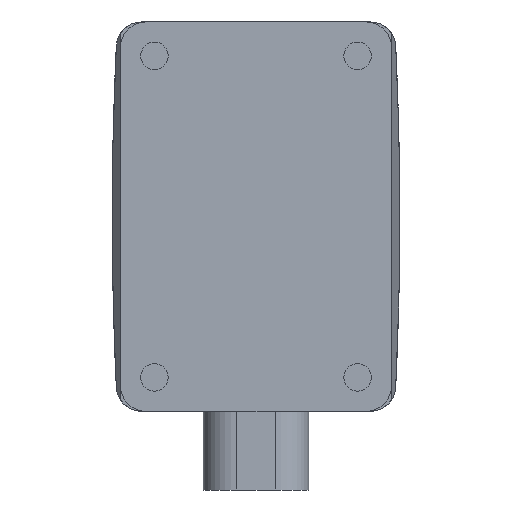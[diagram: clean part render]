
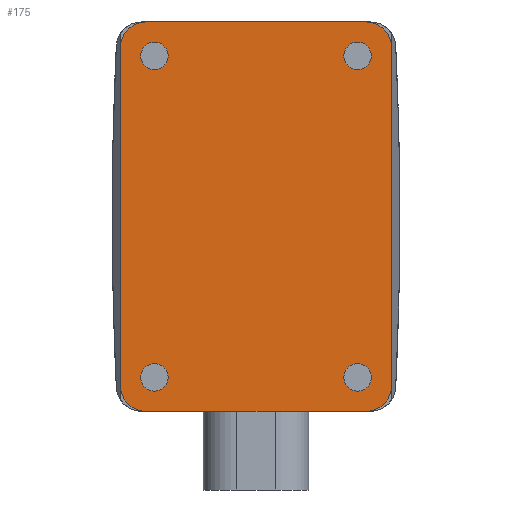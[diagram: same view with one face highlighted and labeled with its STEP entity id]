
A CAD part, front view. The second image highlights one B-rep face of the part: STEP entity #175.
In plain terms, the highlighted planar face has unit normal (0, -1, 0).
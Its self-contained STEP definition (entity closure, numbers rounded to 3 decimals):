
#175 = ADVANCED_FACE( '', ( #410, #411, #412, #413, #414 ), #415, .F. );
#410 = FACE_BOUND( '', #703, .T. );
#411 = FACE_BOUND( '', #704, .T. );
#412 = FACE_BOUND( '', #705, .T. );
#413 = FACE_BOUND( '', #706, .T. );
#414 = FACE_OUTER_BOUND( '', #707, .T. );
#415 = PLANE( '', #708 );
#703 = EDGE_LOOP( '', ( #1159 ) );
#704 = EDGE_LOOP( '', ( #1160 ) );
#705 = EDGE_LOOP( '', ( #1161 ) );
#706 = EDGE_LOOP( '', ( #1162 ) );
#707 = EDGE_LOOP( '', ( #1163, #1164, #1165, #1166, #1167, #1168, #1169, #1170 ) );
#708 = AXIS2_PLACEMENT_3D( '', #1171, #1172, #1173 );
#1159 = ORIENTED_EDGE( '', *, *, #1746, .T. );
#1160 = ORIENTED_EDGE( '', *, *, #1747, .T. );
#1161 = ORIENTED_EDGE( '', *, *, #1615, .T. );
#1162 = ORIENTED_EDGE( '', *, *, #1638, .T. );
#1163 = ORIENTED_EDGE( '', *, *, #1643, .F. );
#1164 = ORIENTED_EDGE( '', *, *, #1748, .F. );
#1165 = ORIENTED_EDGE( '', *, *, #1657, .F. );
#1166 = ORIENTED_EDGE( '', *, *, #1749, .F. );
#1167 = ORIENTED_EDGE( '', *, *, #1750, .F. );
#1168 = ORIENTED_EDGE( '', *, *, #1751, .F. );
#1169 = ORIENTED_EDGE( '', *, *, #1752, .F. );
#1170 = ORIENTED_EDGE( '', *, *, #1604, .F. );
#1171 = CARTESIAN_POINT( '', ( -13., -18., 20. ) );
#1172 = DIRECTION( '', ( 0., 1., 0. ) );
#1173 = DIRECTION( '', ( 0., 0., 1. ) );
#1604 = EDGE_CURVE( '', #1885, #1887, #1888, .T. );
#1615 = EDGE_CURVE( '', #1905, #1905, #1906, .T. );
#1638 = EDGE_CURVE( '', #1945, #1945, #1946, .T. );
#1643 = EDGE_CURVE( '', #1952, #1885, #1954, .T. );
#1657 = EDGE_CURVE( '', #1976, #1978, #1979, .T. );
#1746 = EDGE_CURVE( '', #2120, #2120, #2121, .T. );
#1747 = EDGE_CURVE( '', #2122, #2122, #2123, .T. );
#1748 = EDGE_CURVE( '', #1978, #1952, #2124, .T. );
#1749 = EDGE_CURVE( '', #2125, #1976, #2126, .T. );
#1750 = EDGE_CURVE( '', #2127, #2125, #2128, .T. );
#1751 = EDGE_CURVE( '', #2129, #2127, #2130, .T. );
#1752 = EDGE_CURVE( '', #1887, #2129, #2131, .T. );
#1885 = VERTEX_POINT( '', #2296 );
#1887 = VERTEX_POINT( '', #2299 );
#1888 = CIRCLE( '', #2300, 3. );
#1905 = VERTEX_POINT( '', #2320 );
#1906 = CIRCLE( '', #2321, 1.62 );
#1945 = VERTEX_POINT( '', #2400 );
#1946 = CIRCLE( '', #2401, 1.62 );
#1952 = VERTEX_POINT( '', #2408 );
#1954 = LINE( '', #2411, #2412 );
#1976 = VERTEX_POINT( '', #2440 );
#1978 = VERTEX_POINT( '', #2443 );
#1979 = LINE( '', #2444, #2445 );
#2120 = VERTEX_POINT( '', #2659 );
#2121 = CIRCLE( '', #2660, 1.62 );
#2122 = VERTEX_POINT( '', #2661 );
#2123 = CIRCLE( '', #2662, 1.62 );
#2124 = CIRCLE( '', #2663, 3. );
#2125 = VERTEX_POINT( '', #2664 );
#2126 = CIRCLE( '', #2665, 3. );
#2127 = VERTEX_POINT( '', #2666 );
#2128 = LINE( '', #2667, #2668 );
#2129 = VERTEX_POINT( '', #2669 );
#2130 = CIRCLE( '', #2670, 3. );
#2131 = LINE( '', #2671, #2672 );
#2296 = CARTESIAN_POINT( '', ( -16., -18., 20. ) );
#2299 = CARTESIAN_POINT( '', ( -13., -18., 23. ) );
#2300 = AXIS2_PLACEMENT_3D( '', #2867, #2868, #2869 );
#2320 = CARTESIAN_POINT( '', ( 13.62, -18., 19. ) );
#2321 = AXIS2_PLACEMENT_3D( '', #2885, #2886, #2887 );
#2400 = CARTESIAN_POINT( '', ( 13.62, -18., -19. ) );
#2401 = AXIS2_PLACEMENT_3D( '', #2917, #2918, #2919 );
#2408 = CARTESIAN_POINT( '', ( -16., -18., -20. ) );
#2411 = CARTESIAN_POINT( '', ( -16., -18., -20. ) );
#2412 = VECTOR( '', #2925, 1000. );
#2440 = CARTESIAN_POINT( '', ( 13., -18., -23. ) );
#2443 = CARTESIAN_POINT( '', ( -13., -18., -23. ) );
#2444 = CARTESIAN_POINT( '', ( 13., -18., -23. ) );
#2445 = VECTOR( '', #2945, 1000. );
#2659 = CARTESIAN_POINT( '', ( -10.38, -18., 19. ) );
#2660 = AXIS2_PLACEMENT_3D( '', #3057, #3058, #3059 );
#2661 = CARTESIAN_POINT( '', ( -10.38, -18., -19. ) );
#2662 = AXIS2_PLACEMENT_3D( '', #3060, #3061, #3062 );
#2663 = AXIS2_PLACEMENT_3D( '', #3063, #3064, #3065 );
#2664 = CARTESIAN_POINT( '', ( 16., -18., -20. ) );
#2665 = AXIS2_PLACEMENT_3D( '', #3066, #3067, #3068 );
#2666 = CARTESIAN_POINT( '', ( 16., -18., 20. ) );
#2667 = CARTESIAN_POINT( '', ( 16., -18., 20. ) );
#2668 = VECTOR( '', #3069, 1000. );
#2669 = CARTESIAN_POINT( '', ( 13., -18., 23. ) );
#2670 = AXIS2_PLACEMENT_3D( '', #3070, #3071, #3072 );
#2671 = CARTESIAN_POINT( '', ( -13., -18., 23. ) );
#2672 = VECTOR( '', #3073, 1000. );
#2867 = CARTESIAN_POINT( '', ( -13., -18., 20. ) );
#2868 = DIRECTION( '', ( 0., 1., 0. ) );
#2869 = DIRECTION( '', ( 1., 0., 0. ) );
#2885 = CARTESIAN_POINT( '', ( 12., -18., 19. ) );
#2886 = DIRECTION( '', ( 0., 1., 0. ) );
#2887 = DIRECTION( '', ( 1., 0., 0. ) );
#2917 = CARTESIAN_POINT( '', ( 12., -18., -19. ) );
#2918 = DIRECTION( '', ( 0., 1., 0. ) );
#2919 = DIRECTION( '', ( 1., 0., 0. ) );
#2925 = DIRECTION( '', ( 0., 0., 1. ) );
#2945 = DIRECTION( '', ( -1., 0., 0. ) );
#3057 = CARTESIAN_POINT( '', ( -12., -18., 19. ) );
#3058 = DIRECTION( '', ( 0., 1., 0. ) );
#3059 = DIRECTION( '', ( 1., 0., 0. ) );
#3060 = CARTESIAN_POINT( '', ( -12., -18., -19. ) );
#3061 = DIRECTION( '', ( 0., 1., 0. ) );
#3062 = DIRECTION( '', ( 1., 0., 0. ) );
#3063 = CARTESIAN_POINT( '', ( -13., -18., -20. ) );
#3064 = DIRECTION( '', ( 0., 1., 0. ) );
#3065 = DIRECTION( '', ( 1., 0., 0. ) );
#3066 = CARTESIAN_POINT( '', ( 13., -18., -20. ) );
#3067 = DIRECTION( '', ( 0., 1., 0. ) );
#3068 = DIRECTION( '', ( 1., 0., 0. ) );
#3069 = DIRECTION( '', ( 0., 0., -1. ) );
#3070 = CARTESIAN_POINT( '', ( 13., -18., 20. ) );
#3071 = DIRECTION( '', ( 0., 1., 0. ) );
#3072 = DIRECTION( '', ( 1., 0., 0. ) );
#3073 = DIRECTION( '', ( 1., 0., 0. ) );
